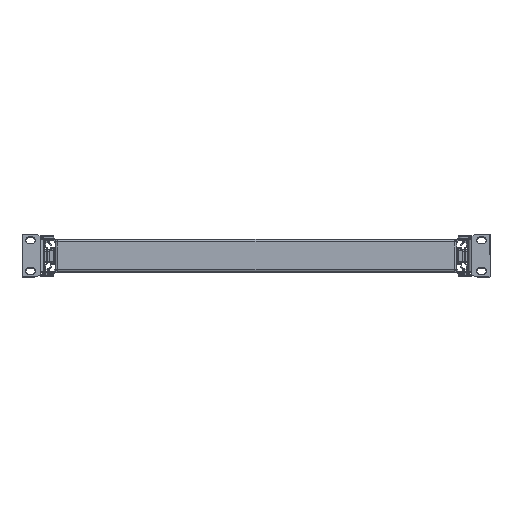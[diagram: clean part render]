
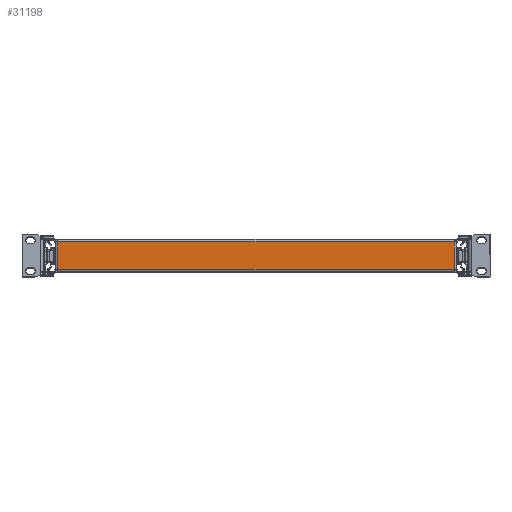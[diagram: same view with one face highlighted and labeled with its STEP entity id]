
A CAD part, top view. The second image highlights one B-rep face of the part: STEP entity #31198.
In plain terms, the highlighted planar face has unit normal (0, 0, 1).
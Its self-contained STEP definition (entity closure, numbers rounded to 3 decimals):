
#683 = DIRECTION ( 'NONE',  ( 0., -1., 0. ) ) ;
#777 = LINE ( 'NONE', #40619, #7042 ) ;
#1184 = VECTOR ( 'NONE', #33450, 1000. ) ;
#3237 = CARTESIAN_POINT ( 'NONE',  ( 204.3, -1.5, 175. ) ) ;
#3358 = PLANE ( 'NONE',  #32500 ) ;
#4593 = LINE ( 'NONE', #4698, #43274 ) ;
#4668 = EDGE_CURVE ( 'NONE', #51554, #5918, #20556, .T. ) ;
#4698 = CARTESIAN_POINT ( 'NONE',  ( -204.3, -1.5, 175. ) ) ;
#5918 = VERTEX_POINT ( 'NONE', #7131 ) ;
#6627 = ORIENTED_EDGE ( 'NONE', *, *, #4668, .T. ) ;
#7042 = VECTOR ( 'NONE', #21073, 1000. ) ;
#7131 = CARTESIAN_POINT ( 'NONE',  ( -204.3, -1.5, 175. ) ) ;
#10100 = VERTEX_POINT ( 'NONE', #47542 ) ;
#10263 = EDGE_CURVE ( 'NONE', #43903, #51554, #777, .T. ) ;
#10445 = VECTOR ( 'NONE', #51010, 1000. ) ;
#10917 = FACE_OUTER_BOUND ( 'NONE', #42416, .T. ) ;
#11165 = DIRECTION ( 'NONE',  ( 0., 0., 1. ) ) ;
#17026 = CARTESIAN_POINT ( 'NONE',  ( -207.2, -1.5, 175. ) ) ;
#18135 = ORIENTED_EDGE ( 'NONE', *, *, #10263, .T. ) ;
#20556 = LINE ( 'NONE', #17026, #1184 ) ;
#21073 = DIRECTION ( 'NONE',  ( 0., 1., 0. ) ) ;
#21086 = LINE ( 'NONE', #50472, #10445 ) ;
#24767 = EDGE_CURVE ( 'NONE', #10100, #43903, #21086, .T. ) ;
#26854 = EDGE_CURVE ( 'NONE', #5918, #10100, #4593, .T. ) ;
#30918 = CARTESIAN_POINT ( 'NONE',  ( 204.3, -29.7, 175. ) ) ;
#31198 = ADVANCED_FACE ( 'NONE', ( #10917 ), #3358, .T. ) ;
#32500 = AXIS2_PLACEMENT_3D ( 'NONE', #47392, #11165, #43613 ) ;
#33450 = DIRECTION ( 'NONE',  ( -1., 0., 0. ) ) ;
#40619 = CARTESIAN_POINT ( 'NONE',  ( 204.3, -32.6, 175. ) ) ;
#41533 = ORIENTED_EDGE ( 'NONE', *, *, #24767, .T. ) ;
#42416 = EDGE_LOOP ( 'NONE', ( #48729, #41533, #18135, #6627 ) ) ;
#43274 = VECTOR ( 'NONE', #683, 1000. ) ;
#43613 = DIRECTION ( 'NONE',  ( 0., -1., 0. ) ) ;
#43903 = VERTEX_POINT ( 'NONE', #30918 ) ;
#47392 = CARTESIAN_POINT ( 'NONE',  ( -207.2, 0., 175. ) ) ;
#47542 = CARTESIAN_POINT ( 'NONE',  ( -204.3, -29.7, 175. ) ) ;
#48729 = ORIENTED_EDGE ( 'NONE', *, *, #26854, .T. ) ;
#50472 = CARTESIAN_POINT ( 'NONE',  ( -204.3, -29.7, 175. ) ) ;
#51010 = DIRECTION ( 'NONE',  ( 1., 0., 0. ) ) ;
#51554 = VERTEX_POINT ( 'NONE', #3237 ) ;
